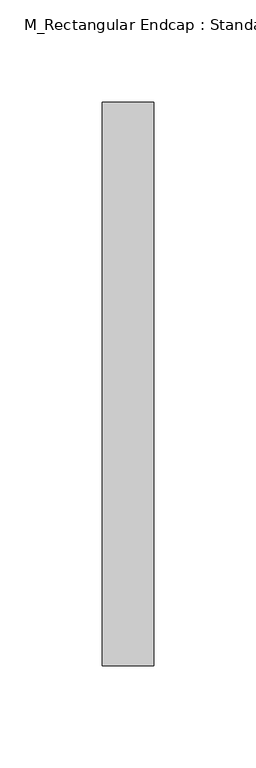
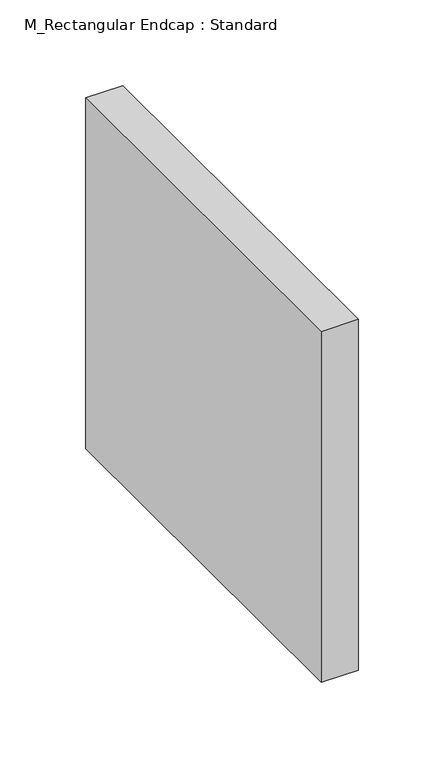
"""IFC4 building model written with IfcOpenShell, lengths in millimetres: duct fitting geometry, M_Rectangular Endcap : Standard."""

from ifc_helpers import new_model, si_unit, frame, origin, place, context, project, spatial, polyline, outline, extrude, source, transform, mapped, element, save


def m_rectangular_endcap_standard_7316ac99(model_context):
    return source(origin(), model_context, "Body", "SweptSolid", [
        extrude(outline(polyline([(0.0, -137.5), (0.0, 137.5), (25.0, 137.5), (25.0, -137.5), (0.0, -137.5)])), frame((0.0, 0.0, -125.0), z_axis=(0.0, 0.0, 1.0), x_axis=(1.0, 0.0, 0.0)), (0.0, 0.0, 1.0), 250.0),
        extrude(outline(polyline([(0.0, -137.5), (0.0, 137.5), (25.0, 137.5), (25.0, -137.5), (0.0, -137.5)])), frame((0.0, 0.0, -125.0), z_axis=(0.0, 0.0, 1.0), x_axis=(1.0, 0.0, 0.0)), (0.0, 0.0, 1.0), 250.0),
        extrude(outline(polyline([(0.0, -137.5), (0.0, 137.5), (25.0, 137.5), (25.0, -137.5), (0.0, -137.5)])), frame((0.0, 0.0, -125.0), z_axis=(0.0, 0.0, 1.0), x_axis=(1.0, 0.0, 0.0)), (0.0, 0.0, 1.0), 250.0),
    ])


if __name__ == "__main__":
    model = new_model("IFC4")
    model_context = context("Model", 3, world=origin())
    ifc_project = project(units=[si_unit("LENGTHUNIT", "METRE", prefix="MILLI")], contexts=[model_context])
    site = spatial("IfcSite", under=ifc_project)
    building = spatial("IfcBuilding", under=site)
    placement = place(None, origin())
    m_rectangular_endcap_standard_shape = m_rectangular_endcap_standard_7316ac99(model_context)
    element("IfcDuctFitting", 1, ObjectType="M_Rectangular Endcap : Standard", at=placement, inside=building, context=model_context, shape_type="MappedRepresentation", body=[
        mapped(m_rectangular_endcap_standard_shape, transform((0.0, 0.0, 0.0), x_axis=(1.0, 0.0, 0.0), y_axis=(0.0, 1.0, 0.0), z_axis=(0.0, 0.0, 1.0))),
    ])
    save(model, "model.ifc")
